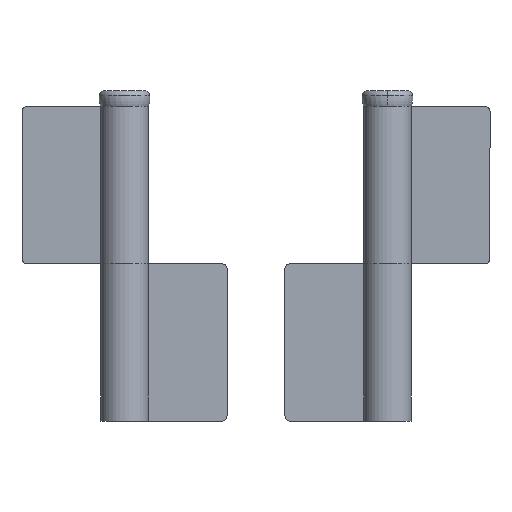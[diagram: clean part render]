
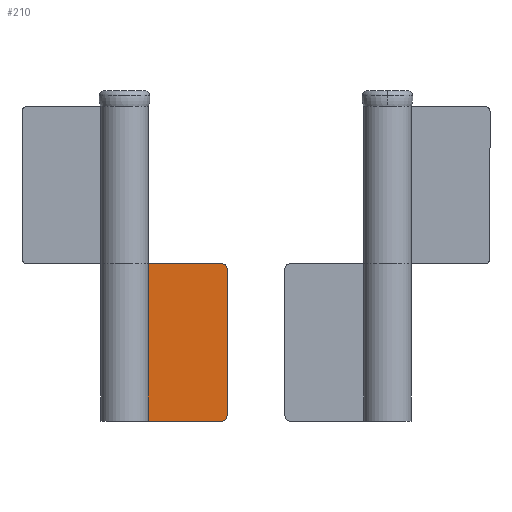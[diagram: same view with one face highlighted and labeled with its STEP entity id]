
A CAD part, top view. The second image highlights one B-rep face of the part: STEP entity #210.
In plain terms, the highlighted planar face has unit normal (0, 0, 1) as drawn and (0, 1, 0) by its records, which use the part's own axes.
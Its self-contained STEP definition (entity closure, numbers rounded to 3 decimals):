
#23 = CARTESIAN_POINT ( 'NONE',  ( 19., -3.275, -15.35 ) ) ;
#33 = VECTOR ( 'NONE', #1283, 1000. ) ;
#40 = DIRECTION ( 'NONE',  ( 1., 0., 0. ) ) ;
#56 = EDGE_CURVE ( 'NONE', #282, #858, #1282, .T. ) ;
#117 = CARTESIAN_POINT ( 'NONE',  ( 20., -3.275, 14.35 ) ) ;
#139 = AXIS2_PLACEMENT_3D ( 'NONE', #1262, #709, #1130 ) ;
#210 = ADVANCED_FACE ( 'NONE', ( #716 ), #1140, .T. ) ;
#243 = EDGE_LOOP ( 'NONE', ( #948, #339, #476, #1068, #371, #757 ) ) ;
#250 = LINE ( 'NONE', #1095, #816 ) ;
#282 = VERTEX_POINT ( 'NONE', #445 ) ;
#322 = DIRECTION ( 'NONE',  ( 0., 1., 0. ) ) ;
#335 = CARTESIAN_POINT ( 'NONE',  ( 20., -3.275, -14.35 ) ) ;
#339 = ORIENTED_EDGE ( 'NONE', *, *, #985, .T. ) ;
#371 = ORIENTED_EDGE ( 'NONE', *, *, #374, .T. ) ;
#374 = EDGE_CURVE ( 'NONE', #1056, #282, #1293, .T. ) ;
#383 = VECTOR ( 'NONE', #522, 1000. ) ;
#405 = LINE ( 'NONE', #812, #383 ) ;
#423 = VERTEX_POINT ( 'NONE', #335 ) ;
#445 = CARTESIAN_POINT ( 'NONE',  ( 19., -3.275, 15.35 ) ) ;
#467 = AXIS2_PLACEMENT_3D ( 'NONE', #1241, #322, #929 ) ;
#476 = ORIENTED_EDGE ( 'NONE', *, *, #784, .F. ) ;
#479 = CARTESIAN_POINT ( 'NONE',  ( 0., -3.275, -15.35 ) ) ;
#522 = DIRECTION ( 'NONE',  ( 0., 0., 1. ) ) ;
#562 = VECTOR ( 'NONE', #40, 1000. ) ;
#615 = AXIS2_PLACEMENT_3D ( 'NONE', #904, #1062, #1340 ) ;
#709 = DIRECTION ( 'NONE',  ( 0., 1., 0. ) ) ;
#716 = FACE_OUTER_BOUND ( 'NONE', #243, .T. ) ;
#757 = ORIENTED_EDGE ( 'NONE', *, *, #56, .T. ) ;
#784 = EDGE_CURVE ( 'NONE', #1251, #831, #966, .T. ) ;
#812 = CARTESIAN_POINT ( 'NONE',  ( 0., -3.275, 15.35 ) ) ;
#816 = VECTOR ( 'NONE', #1204, 1000. ) ;
#831 = VERTEX_POINT ( 'NONE', #23 ) ;
#851 = CARTESIAN_POINT ( 'NONE',  ( 0., -3.275, 15.35 ) ) ;
#858 = VERTEX_POINT ( 'NONE', #117 ) ;
#904 = CARTESIAN_POINT ( 'NONE',  ( 19., -3.275, 14.35 ) ) ;
#929 = DIRECTION ( 'NONE',  ( 0., 0., 1. ) ) ;
#948 = ORIENTED_EDGE ( 'NONE', *, *, #1341, .F. ) ;
#966 = LINE ( 'NONE', #1072, #562 ) ;
#985 = EDGE_CURVE ( 'NONE', #423, #831, #1117, .T. ) ;
#1056 = VERTEX_POINT ( 'NONE', #1137 ) ;
#1062 = DIRECTION ( 'NONE',  ( 0., 1., 0. ) ) ;
#1068 = ORIENTED_EDGE ( 'NONE', *, *, #1151, .T. ) ;
#1072 = CARTESIAN_POINT ( 'NONE',  ( 0., -3.275, -15.35 ) ) ;
#1095 = CARTESIAN_POINT ( 'NONE',  ( 20., -3.275, 15.35 ) ) ;
#1117 = CIRCLE ( 'NONE', #467, 1. ) ;
#1130 = DIRECTION ( 'NONE',  ( 0., 0., 1. ) ) ;
#1137 = CARTESIAN_POINT ( 'NONE',  ( 0., -3.275, 15.35 ) ) ;
#1140 = PLANE ( 'NONE',  #139 ) ;
#1151 = EDGE_CURVE ( 'NONE', #1251, #1056, #405, .T. ) ;
#1204 = DIRECTION ( 'NONE',  ( 0., 0., 1. ) ) ;
#1241 = CARTESIAN_POINT ( 'NONE',  ( 19., -3.275, -14.35 ) ) ;
#1251 = VERTEX_POINT ( 'NONE', #479 ) ;
#1262 = CARTESIAN_POINT ( 'NONE',  ( 0., -3.275, 15.35 ) ) ;
#1282 = CIRCLE ( 'NONE', #615, 1. ) ;
#1283 = DIRECTION ( 'NONE',  ( 1., 0., 0. ) ) ;
#1293 = LINE ( 'NONE', #851, #33 ) ;
#1340 = DIRECTION ( 'NONE',  ( 0., 0., 1. ) ) ;
#1341 = EDGE_CURVE ( 'NONE', #423, #858, #250, .T. ) ;
